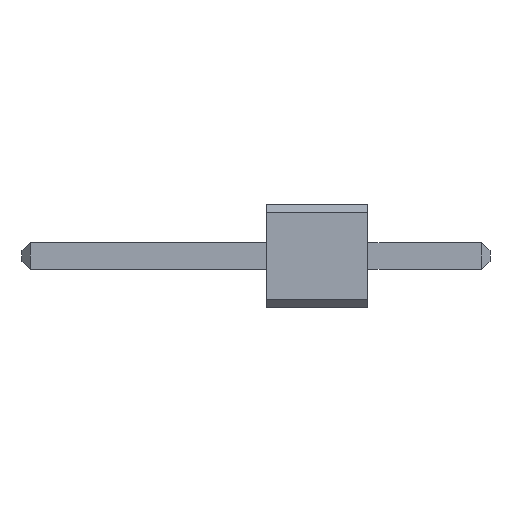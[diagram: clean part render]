
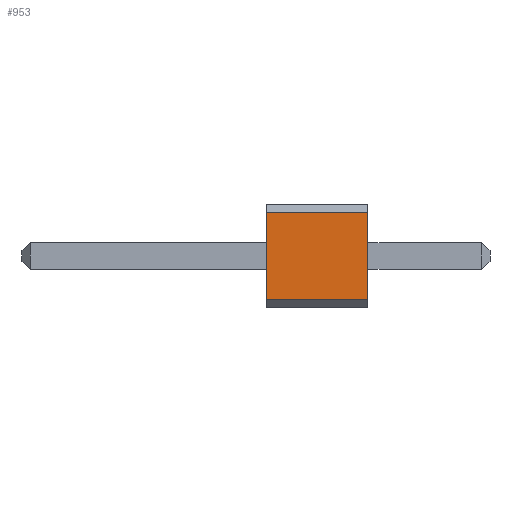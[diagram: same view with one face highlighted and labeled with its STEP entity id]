
A CAD part, left-side view. The second image highlights one B-rep face of the part: STEP entity #953.
In plain terms, the highlighted planar face has unit normal (-1, 0, 0).
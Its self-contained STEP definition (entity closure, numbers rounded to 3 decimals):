
#61 = LINE ( 'NONE', #1145, #272 ) ;
#102 = VERTEX_POINT ( 'NONE', #250 ) ;
#118 = EDGE_CURVE ( 'NONE', #608, #1248, #61, .T. ) ;
#142 = CARTESIAN_POINT ( 'NONE',  ( -1.27, 2.5, -1.07 ) ) ;
#150 = VERTEX_POINT ( 'NONE', #1068 ) ;
#163 = CARTESIAN_POINT ( 'NONE',  ( -1.27, 0., 1.27 ) ) ;
#168 = DIRECTION ( 'NONE',  ( 0., 0., 1. ) ) ;
#246 = AXIS2_PLACEMENT_3D ( 'NONE', #354, #907, #621 ) ;
#250 = CARTESIAN_POINT ( 'NONE',  ( -1.27, 0., -1.07 ) ) ;
#272 = VECTOR ( 'NONE', #547, 1000. ) ;
#275 = CARTESIAN_POINT ( 'NONE',  ( -1.27, 2.5, 1.07 ) ) ;
#300 = CARTESIAN_POINT ( 'NONE',  ( -1.27, 2.5, 1.07 ) ) ;
#354 = CARTESIAN_POINT ( 'NONE',  ( -1.27, 2.5, 1.27 ) ) ;
#371 = VECTOR ( 'NONE', #716, 1000. ) ;
#388 = DIRECTION ( 'NONE',  ( 0., -1., 0. ) ) ;
#411 = LINE ( 'NONE', #163, #684 ) ;
#464 = EDGE_LOOP ( 'NONE', ( #745, #1087, #1247, #721 ) ) ;
#547 = DIRECTION ( 'NONE',  ( 0., 0., 1. ) ) ;
#608 = VERTEX_POINT ( 'NONE', #142 ) ;
#621 = DIRECTION ( 'NONE',  ( 0., 0., -1. ) ) ;
#677 = CARTESIAN_POINT ( 'NONE',  ( -1.27, 2.5, -1.07 ) ) ;
#684 = VECTOR ( 'NONE', #168, 1000. ) ;
#699 = PLANE ( 'NONE',  #246 ) ;
#716 = DIRECTION ( 'NONE',  ( 0., 1., 0. ) ) ;
#721 = ORIENTED_EDGE ( 'NONE', *, *, #943, .T. ) ;
#745 = ORIENTED_EDGE ( 'NONE', *, *, #118, .F. ) ;
#750 = LINE ( 'NONE', #677, #917 ) ;
#907 = DIRECTION ( 'NONE',  ( 1., 0., 0. ) ) ;
#917 = VECTOR ( 'NONE', #388, 1000. ) ;
#943 = EDGE_CURVE ( 'NONE', #150, #1248, #1112, .T. ) ;
#953 = ADVANCED_FACE ( 'NONE', ( #1128 ), #699, .F. ) ;
#1068 = CARTESIAN_POINT ( 'NONE',  ( -1.27, 0., 1.07 ) ) ;
#1071 = EDGE_CURVE ( 'NONE', #102, #150, #411, .T. ) ;
#1087 = ORIENTED_EDGE ( 'NONE', *, *, #1256, .T. ) ;
#1112 = LINE ( 'NONE', #300, #371 ) ;
#1128 = FACE_OUTER_BOUND ( 'NONE', #464, .T. ) ;
#1145 = CARTESIAN_POINT ( 'NONE',  ( -1.27, 2.5, 1.27 ) ) ;
#1247 = ORIENTED_EDGE ( 'NONE', *, *, #1071, .T. ) ;
#1248 = VERTEX_POINT ( 'NONE', #275 ) ;
#1256 = EDGE_CURVE ( 'NONE', #608, #102, #750, .T. ) ;
